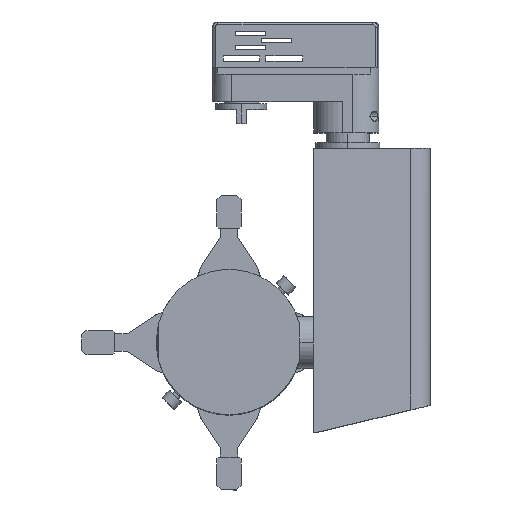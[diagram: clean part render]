
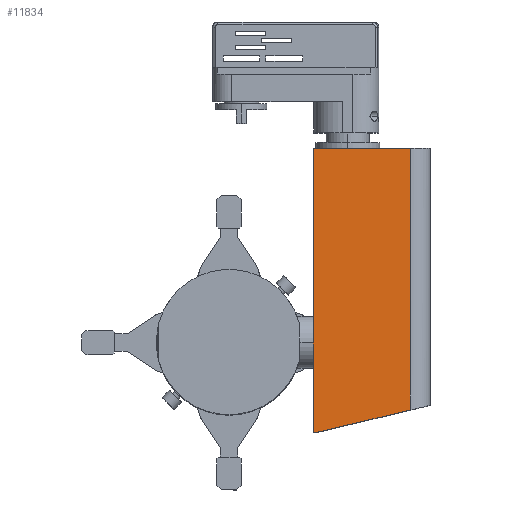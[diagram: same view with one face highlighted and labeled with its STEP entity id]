
A CAD part, top view. The second image highlights one B-rep face of the part: STEP entity #11834.
In plain terms, the highlighted planar face has unit normal (0.037, 0, 0.999).
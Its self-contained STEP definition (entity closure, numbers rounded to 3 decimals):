
#77 = ORIENTED_EDGE ( 'NONE', *, *, #10587, .F. ) ;
#296 = ORIENTED_EDGE ( 'NONE', *, *, #1386, .F. ) ;
#347 = CARTESIAN_POINT ( 'NONE',  ( 9.3, -52., 37.945 ) ) ;
#1386 = EDGE_CURVE ( 'NONE', #10066, #9077, #10612, .T. ) ;
#1651 = DIRECTION ( 'NONE',  ( 0., -1., 0. ) ) ;
#1906 = VECTOR ( 'NONE', #2471, 1000. ) ;
#1986 = LINE ( 'NONE', #2286, #5447 ) ;
#2137 = CARTESIAN_POINT ( 'NONE',  ( 65.542, -39.161, 35.871 ) ) ;
#2286 = CARTESIAN_POINT ( 'NONE',  ( 77.008, -52., 35.448 ) ) ;
#2471 = DIRECTION ( 'NONE',  ( -0.999, 0., 0.037 ) ) ;
#2846 = CARTESIAN_POINT ( 'NONE',  ( 15.954, -51.008, 37.7 ) ) ;
#2908 = LINE ( 'NONE', #11358, #8540 ) ;
#2939 = LINE ( 'NONE', #6279, #10005 ) ;
#3049 = CARTESIAN_POINT ( 'NONE',  ( 9.3, 112., 37.945 ) ) ;
#3745 = EDGE_CURVE ( 'NONE', #9334, #7277, #2939, .T. ) ;
#4545 = FACE_OUTER_BOUND ( 'NONE', #6003, .T. ) ;
#4938 = LINE ( 'NONE', #5171, #1906 ) ;
#5171 = CARTESIAN_POINT ( 'NONE',  ( 9.3, 112., 37.945 ) ) ;
#5435 = EDGE_CURVE ( 'NONE', #10066, #9419, #2908, .T. ) ;
#5447 = VECTOR ( 'NONE', #10683, 1000. ) ;
#5740 = DIRECTION ( 'NONE',  ( 0., 1., 0. ) ) ;
#6003 = EDGE_LOOP ( 'NONE', ( #296, #6743, #8957, #6955, #77 ) ) ;
#6279 = CARTESIAN_POINT ( 'NONE',  ( 9.3, -52., 37.945 ) ) ;
#6407 = DIRECTION ( 'NONE',  ( -0.972, -0.232, 0.036 ) ) ;
#6743 = ORIENTED_EDGE ( 'NONE', *, *, #5435, .T. ) ;
#6955 = ORIENTED_EDGE ( 'NONE', *, *, #3745, .T. ) ;
#7257 = DIRECTION ( 'NONE',  ( -0.037, 0., -0.999 ) ) ;
#7268 = CARTESIAN_POINT ( 'NONE',  ( 11.8, -52., 37.853 ) ) ;
#7277 = VERTEX_POINT ( 'NONE', #347 ) ;
#7342 = PLANE ( 'NONE',  #7825 ) ;
#7825 = AXIS2_PLACEMENT_3D ( 'NONE', #8249, #7257, #8170 ) ;
#8170 = DIRECTION ( 'NONE',  ( -0.999, 0., 0.037 ) ) ;
#8249 = CARTESIAN_POINT ( 'NONE',  ( 9.3, -101.8, 37.945 ) ) ;
#8540 = VECTOR ( 'NONE', #5740, 1000. ) ;
#8957 = ORIENTED_EDGE ( 'NONE', *, *, #9617, .T. ) ;
#9077 = VERTEX_POINT ( 'NONE', #7268 ) ;
#9334 = VERTEX_POINT ( 'NONE', #3049 ) ;
#9419 = VERTEX_POINT ( 'NONE', #10249 ) ;
#9498 = VECTOR ( 'NONE', #6407, 1000. ) ;
#9617 = EDGE_CURVE ( 'NONE', #9419, #9334, #4938, .T. ) ;
#10005 = VECTOR ( 'NONE', #1651, 1000. ) ;
#10066 = VERTEX_POINT ( 'NONE', #2137 ) ;
#10249 = CARTESIAN_POINT ( 'NONE',  ( 65.542, 112., 35.871 ) ) ;
#10587 = EDGE_CURVE ( 'NONE', #9077, #7277, #1986, .T. ) ;
#10612 = LINE ( 'NONE', #2846, #9498 ) ;
#10683 = DIRECTION ( 'NONE',  ( -0.999, 0., 0.037 ) ) ;
#11358 = CARTESIAN_POINT ( 'NONE',  ( 65.542, -101.8, 35.871 ) ) ;
#11834 = ADVANCED_FACE ( 'NONE', ( #4545 ), #7342, .F. ) ;
